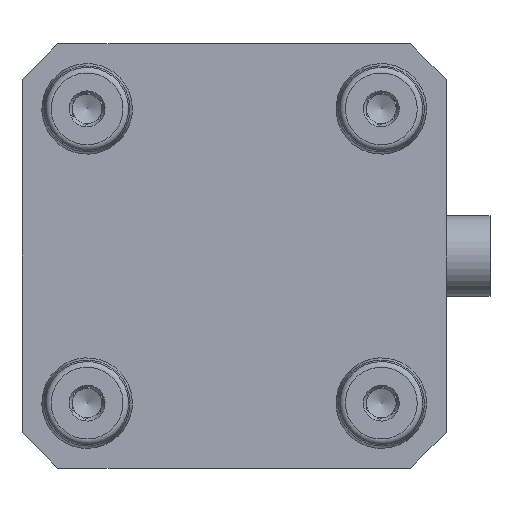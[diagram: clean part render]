
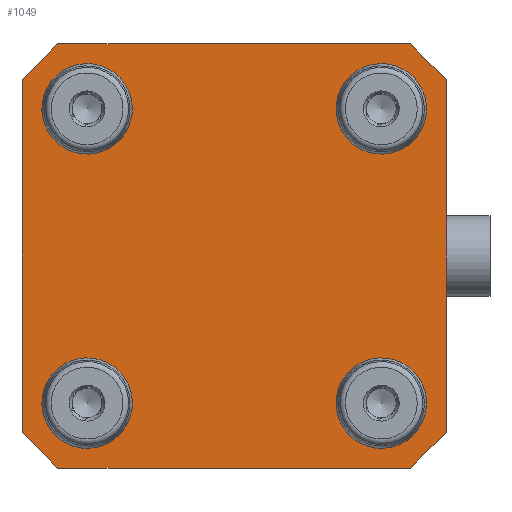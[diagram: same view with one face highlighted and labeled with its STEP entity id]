
A CAD part, front view. The second image highlights one B-rep face of the part: STEP entity #1049.
In plain terms, the highlighted planar face has unit normal (0, -1, 0).
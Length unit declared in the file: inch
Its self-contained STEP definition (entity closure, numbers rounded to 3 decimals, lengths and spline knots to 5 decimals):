
#36 = AXIS2_PLACEMENT_3D ( 'NONE', #7003, #1125, #7798 ) ;
#37 = CARTESIAN_POINT ( 'NONE',  ( -1.47638, -0.98425, 1.22638 ) ) ;
#114 = AXIS2_PLACEMENT_3D ( 'NONE', #3034, #4239, #4147 ) ;
#273 = EDGE_CURVE ( 'NONE', #352, #4200, #2803, .T. ) ;
#285 = FACE_BOUND ( 'NONE', #4290, .T. ) ;
#352 = VERTEX_POINT ( 'NONE', #8059 ) ;
#390 = VERTEX_POINT ( 'NONE', #979 ) ;
#495 = CIRCLE ( 'NONE', #36, 0.23655 ) ;
#657 = EDGE_CURVE ( 'NONE', #8294, #5401, #3260, .T. ) ;
#681 = CARTESIAN_POINT ( 'NONE',  ( -1.02362, -0.98425, -1.02362 ) ) ;
#713 = CARTESIAN_POINT ( 'NONE',  ( -1.47638, -0.98425, 1.22638 ) ) ;
#778 = ORIENTED_EDGE ( 'NONE', *, *, #657, .F. ) ;
#805 = DIRECTION ( 'NONE',  ( -0.707, 0., 0.707 ) ) ;
#883 = LINE ( 'NONE', #8026, #3925 ) ;
#897 = CARTESIAN_POINT ( 'NONE',  ( -1.02362, -0.98425, -1.26017 ) ) ;
#979 = CARTESIAN_POINT ( 'NONE',  ( 1.22638, -0.98425, 1.47638 ) ) ;
#1014 = EDGE_LOOP ( 'NONE', ( #5142 ) ) ;
#1049 = ADVANCED_FACE ( 'NONE', ( #5661, #4952, #285, #3614, #6970 ), #5627, .T. ) ;
#1056 = ORIENTED_EDGE ( 'NONE', *, *, #5162, .F. ) ;
#1125 = DIRECTION ( 'NONE',  ( 0., -1., 0. ) ) ;
#1176 = VECTOR ( 'NONE', #3807, 39.37008 ) ;
#1281 = EDGE_CURVE ( 'NONE', #4200, #4679, #2144, .T. ) ;
#1313 = CARTESIAN_POINT ( 'NONE',  ( 1.47638, -0.98425, 1.22638 ) ) ;
#1533 = ORIENTED_EDGE ( 'NONE', *, *, #2498, .F. ) ;
#1596 = LINE ( 'NONE', #2963, #7200 ) ;
#1598 = EDGE_CURVE ( 'NONE', #2344, #2344, #7156, .T. ) ;
#1612 = DIRECTION ( 'NONE',  ( 0., -1., 0. ) ) ;
#1659 = ORIENTED_EDGE ( 'NONE', *, *, #7585, .F. ) ;
#1719 = EDGE_CURVE ( 'NONE', #390, #8294, #2640, .T. ) ;
#1962 = CARTESIAN_POINT ( 'NONE',  ( -1.02362, -0.98425, 0.78707 ) ) ;
#2015 = DIRECTION ( 'NONE',  ( 0., 0., -1. ) ) ;
#2144 = LINE ( 'NONE', #713, #2969 ) ;
#2268 = ORIENTED_EDGE ( 'NONE', *, *, #6087, .F. ) ;
#2344 = VERTEX_POINT ( 'NONE', #3518 ) ;
#2425 = CARTESIAN_POINT ( 'NONE',  ( 1.47638, -0.98425, -1.22638 ) ) ;
#2488 = LINE ( 'NONE', #2533, #4909 ) ;
#2498 = EDGE_CURVE ( 'NONE', #5401, #6946, #1596, .T. ) ;
#2533 = CARTESIAN_POINT ( 'NONE',  ( -1.22638, -0.98425, -1.47638 ) ) ;
#2582 = DIRECTION ( 'NONE',  ( -1., 0., 0. ) ) ;
#2640 = LINE ( 'NONE', #1313, #1176 ) ;
#2660 = VECTOR ( 'NONE', #805, 39.37008 ) ;
#2785 = LINE ( 'NONE', #7842, #8366 ) ;
#2803 = LINE ( 'NONE', #5983, #2660 ) ;
#2809 = AXIS2_PLACEMENT_3D ( 'NONE', #681, #6491, #3237 ) ;
#2963 = CARTESIAN_POINT ( 'NONE',  ( 1.22638, -0.98425, -1.47638 ) ) ;
#2969 = VECTOR ( 'NONE', #7927, 39.37008 ) ;
#2994 = CARTESIAN_POINT ( 'NONE',  ( 1.02362, -0.98425, -1.26017 ) ) ;
#3034 = CARTESIAN_POINT ( 'NONE',  ( -1.02362, -0.98425, 1.02362 ) ) ;
#3237 = DIRECTION ( 'NONE',  ( 0., 0., -1. ) ) ;
#3255 = VERTEX_POINT ( 'NONE', #7760 ) ;
#3260 = LINE ( 'NONE', #3869, #8085 ) ;
#3475 = DIRECTION ( 'NONE',  ( -0.707, 0., -0.707 ) ) ;
#3518 = CARTESIAN_POINT ( 'NONE',  ( 1.02362, -0.98425, 0.78707 ) ) ;
#3614 = FACE_BOUND ( 'NONE', #1014, .T. ) ;
#3807 = DIRECTION ( 'NONE',  ( 0.707, 0., -0.707 ) ) ;
#3858 = ORIENTED_EDGE ( 'NONE', *, *, #1598, .F. ) ;
#3869 = CARTESIAN_POINT ( 'NONE',  ( 1.47638, -0.98425, -1.22638 ) ) ;
#3873 = CARTESIAN_POINT ( 'NONE',  ( 1.47638, -0.98425, 1.22638 ) ) ;
#3925 = VECTOR ( 'NONE', #4956, 39.37008 ) ;
#4009 = AXIS2_PLACEMENT_3D ( 'NONE', #7424, #1612, #4358 ) ;
#4147 = DIRECTION ( 'NONE',  ( 0., 0., -1. ) ) ;
#4200 = VERTEX_POINT ( 'NONE', #5524 ) ;
#4209 = CIRCLE ( 'NONE', #114, 0.23655 ) ;
#4239 = DIRECTION ( 'NONE',  ( 0., -1., 0. ) ) ;
#4290 = EDGE_LOOP ( 'NONE', ( #7365 ) ) ;
#4358 = DIRECTION ( 'NONE',  ( 0., 0., -1. ) ) ;
#4679 = VERTEX_POINT ( 'NONE', #37 ) ;
#4819 = CARTESIAN_POINT ( 'NONE',  ( 1.22638, -0.98425, -1.47638 ) ) ;
#4909 = VECTOR ( 'NONE', #2582, 39.37008 ) ;
#4952 = FACE_BOUND ( 'NONE', #5049, .T. ) ;
#4956 = DIRECTION ( 'NONE',  ( 1., 0., 0. ) ) ;
#5007 = DIRECTION ( 'NONE',  ( 0., -1., 0. ) ) ;
#5016 = CIRCLE ( 'NONE', #2809, 0.23655 ) ;
#5049 = EDGE_LOOP ( 'NONE', ( #3858 ) ) ;
#5056 = DIRECTION ( 'NONE',  ( 0., 0., -1. ) ) ;
#5090 = EDGE_LOOP ( 'NONE', ( #1659 ) ) ;
#5142 = ORIENTED_EDGE ( 'NONE', *, *, #5357, .F. ) ;
#5162 = EDGE_CURVE ( 'NONE', #3255, #390, #883, .T. ) ;
#5277 = DIRECTION ( 'NONE',  ( 0.707, 0., 0.707 ) ) ;
#5357 = EDGE_CURVE ( 'NONE', #7331, #7331, #4209, .T. ) ;
#5401 = VERTEX_POINT ( 'NONE', #2425 ) ;
#5480 = EDGE_LOOP ( 'NONE', ( #7568, #2268, #1533, #778, #6755, #1056, #5558, #7408 ) ) ;
#5524 = CARTESIAN_POINT ( 'NONE',  ( -1.47638, -0.98425, -1.22638 ) ) ;
#5558 = ORIENTED_EDGE ( 'NONE', *, *, #8296, .F. ) ;
#5627 = PLANE ( 'NONE',  #4009 ) ;
#5661 = FACE_BOUND ( 'NONE', #5090, .T. ) ;
#5983 = CARTESIAN_POINT ( 'NONE',  ( -1.47638, -0.98425, -1.22638 ) ) ;
#6087 = EDGE_CURVE ( 'NONE', #6946, #352, #2488, .T. ) ;
#6491 = DIRECTION ( 'NONE',  ( 0., -1., 0. ) ) ;
#6755 = ORIENTED_EDGE ( 'NONE', *, *, #1719, .F. ) ;
#6946 = VERTEX_POINT ( 'NONE', #4819 ) ;
#6970 = FACE_OUTER_BOUND ( 'NONE', #5480, .T. ) ;
#6978 = CARTESIAN_POINT ( 'NONE',  ( 1.02362, -0.98425, 1.02362 ) ) ;
#7003 = CARTESIAN_POINT ( 'NONE',  ( 1.02362, -0.98425, -1.02362 ) ) ;
#7156 = CIRCLE ( 'NONE', #7965, 0.23655 ) ;
#7200 = VECTOR ( 'NONE', #3475, 39.37008 ) ;
#7331 = VERTEX_POINT ( 'NONE', #1962 ) ;
#7365 = ORIENTED_EDGE ( 'NONE', *, *, #8127, .F. ) ;
#7408 = ORIENTED_EDGE ( 'NONE', *, *, #1281, .F. ) ;
#7424 = CARTESIAN_POINT ( 'NONE',  ( 0., -0.98425, 0. ) ) ;
#7485 = VERTEX_POINT ( 'NONE', #897 ) ;
#7568 = ORIENTED_EDGE ( 'NONE', *, *, #273, .F. ) ;
#7585 = EDGE_CURVE ( 'NONE', #7485, #7485, #5016, .T. ) ;
#7760 = CARTESIAN_POINT ( 'NONE',  ( -1.22638, -0.98425, 1.47638 ) ) ;
#7798 = DIRECTION ( 'NONE',  ( 0., 0., -1. ) ) ;
#7842 = CARTESIAN_POINT ( 'NONE',  ( -1.22638, -0.98425, 1.47638 ) ) ;
#7927 = DIRECTION ( 'NONE',  ( 0., 0., 1. ) ) ;
#7965 = AXIS2_PLACEMENT_3D ( 'NONE', #6978, #5007, #5056 ) ;
#7996 = VERTEX_POINT ( 'NONE', #2994 ) ;
#8026 = CARTESIAN_POINT ( 'NONE',  ( 1.22638, -0.98425, 1.47638 ) ) ;
#8059 = CARTESIAN_POINT ( 'NONE',  ( -1.22638, -0.98425, -1.47638 ) ) ;
#8085 = VECTOR ( 'NONE', #2015, 39.37008 ) ;
#8127 = EDGE_CURVE ( 'NONE', #7996, #7996, #495, .T. ) ;
#8294 = VERTEX_POINT ( 'NONE', #3873 ) ;
#8296 = EDGE_CURVE ( 'NONE', #4679, #3255, #2785, .T. ) ;
#8366 = VECTOR ( 'NONE', #5277, 39.37008 ) ;
